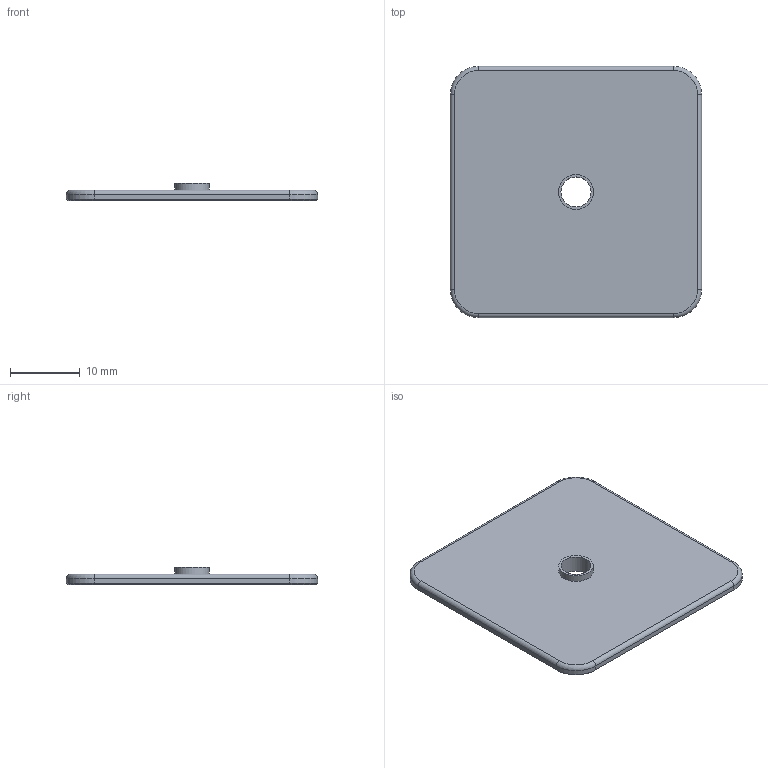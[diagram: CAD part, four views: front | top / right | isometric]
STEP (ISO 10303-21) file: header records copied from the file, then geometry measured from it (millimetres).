
FILE_DESCRIPTION(('Open CASCADE Model'),'2;1');
FILE_NAME('W-SQUARE-WS36','2026-10-19T21:23:52',('Author'),( 'Open CASCADE'),'Open CASCADE STEP processor 8.0','build123d', 'Unknown');
FILE_SCHEMA(('AUTOMOTIVE_DESIGN { 1 0 10303 214 1 1 1 1 }'));
Length unit declared in the file: millimetre
Products named in the file (2): W-SQUARE-WS36; brass_WS36__w
Assembly tree (1 placements, depth 2):
  W-SQUARE-WS36
    brass_WS36__w
Bounding box: 36 x 36 x 2.49 mm (x, y, z)
Volume: 1888.4 mm3; surface area: 2748.7 mm2
Topology: 1 solids, 1 shells, 33 faces, 68 edges, 40 vertices
Faces by surface type: plane 13, cylinder 12, cone 4, torus 4
Full cylindrical faces by diameter (mm): 2 x2, 4.3 x1, 5 x1
Entity records: 1774 total; most frequent: CARTESIAN_POINT 359, DIRECTION 266, ORIENTED_EDGE 136, PCURVE 136, DEFINITIONAL_REPRESENTATION 136, LINE 124, VECTOR 124, EDGE_CURVE 68
